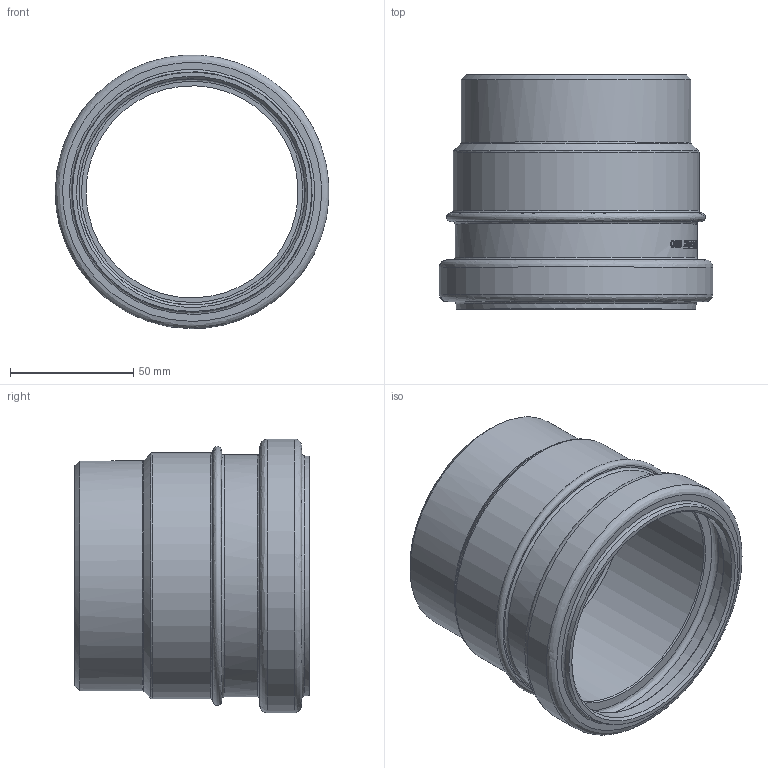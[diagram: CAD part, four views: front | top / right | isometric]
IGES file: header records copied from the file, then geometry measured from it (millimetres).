
Global section: file name: 359144; native system: Autodesk Inventor 2018; preprocessor: unknown; author: JANAN; date: 20200511.135108; units: millimetre
Bounding box: 110.92 x 95 x 110.88 mm (x, y, z)
Volume: 118855.9 mm3; surface area: 66870.7 mm2
Topology: 1 solids, 1 shells, 157 faces, 426 edges, 295 vertices
Faces by surface type: bspline 157
